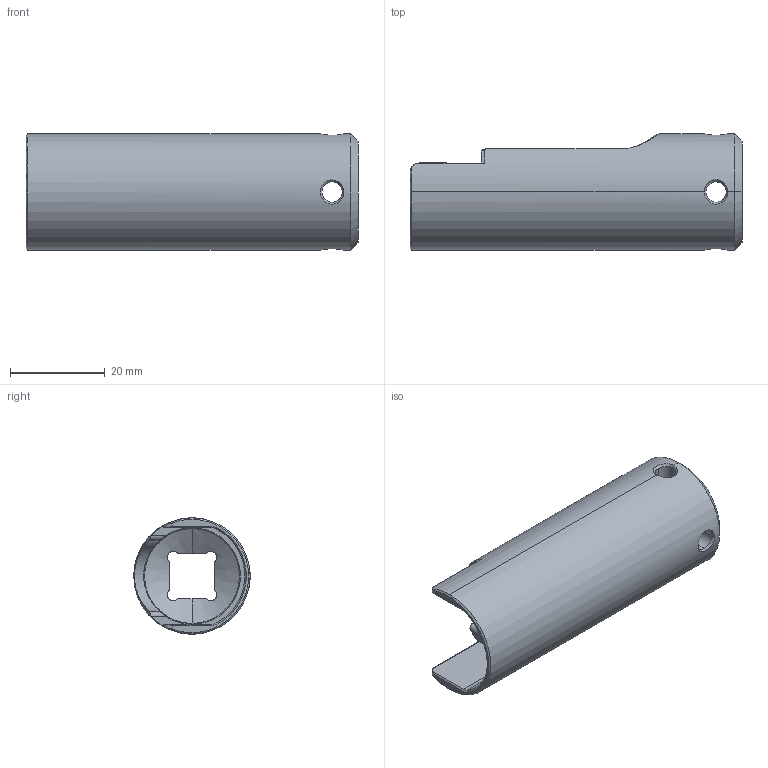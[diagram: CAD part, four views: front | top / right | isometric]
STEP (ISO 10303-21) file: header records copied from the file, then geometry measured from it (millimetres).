
FILE_DESCRIPTION (( 'STEP AP214' ), '1' );
FILE_NAME ('WL-M14-BULKHEAD-WRENCH-R1.STEP', '2021-10-25T00:35:55', ( '' ), ( '' ), 'SwSTEP 2.0', 'SolidWorks 2020', '' );
FILE_SCHEMA (( 'AUTOMOTIVE_DESIGN' ));
Length unit declared in the file: millimetre
Products named in the file (1): WL-M14-BULKHEAD-WRENCH-R1
Bounding box: 70 x 24.5 x 24.5 mm (x, y, z)
Volume: 10073.3 mm3; surface area: 8686.5 mm2
Topology: 1 solids, 1 shells, 78 faces, 212 edges, 133 vertices
Faces by surface type: cylinder 28, plane 19, cone 17, bspline 14
Entity records: 10175 total; most frequent: CARTESIAN_POINT 8362, ORIENTED_EDGE 424, DIRECTION 290, EDGE_CURVE 212, VERTEX_POINT 133, AXIS2_PLACEMENT_3D 110, B_SPLINE_CURVE_WITH_KNOTS 95, EDGE_LOOP 85
